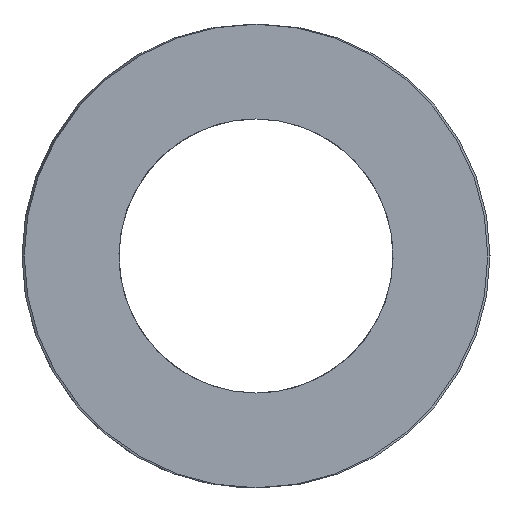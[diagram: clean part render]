
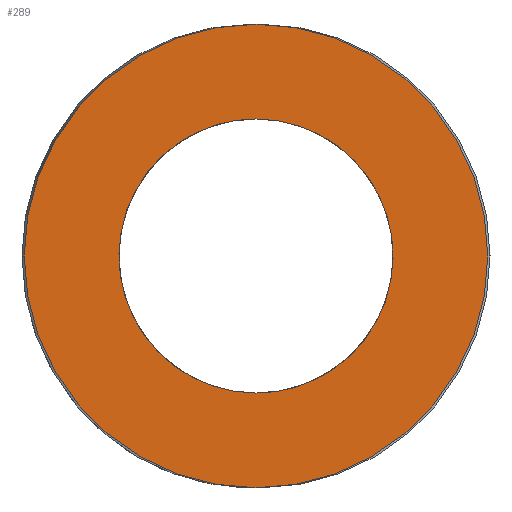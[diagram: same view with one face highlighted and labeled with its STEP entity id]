
A CAD part, left-side view. The second image highlights one B-rep face of the part: STEP entity #289.
In plain terms, the highlighted planar face has unit normal (-1, 0, 0).
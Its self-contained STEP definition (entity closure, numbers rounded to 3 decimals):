
#63=CARTESIAN_POINT('Vertex',(0.,4.65,0.)) ;
#77=CARTESIAN_POINT('Vertex',(0.,-4.65,0.)) ;
#80=CARTESIAN_POINT('Axis2P3D Location',(0.,0.,0.)) ;
#97=CARTESIAN_POINT('Axis2P3D Location',(0.,0.,0.)) ;
#226=CARTESIAN_POINT('Axis2P3D Location',(0.,2.325,0.)) ;
#236=CARTESIAN_POINT('Control Point',(0.,0.,-2.75)) ;
#237=CARTESIAN_POINT('Control Point',(0.,0.325,-2.75)) ;
#238=CARTESIAN_POINT('Control Point',(0.,0.65,-2.702)) ;
#239=CARTESIAN_POINT('Control Point',(0.,0.965,-2.606)) ;
#240=CARTESIAN_POINT('Control Point',(0.,1.559,-2.324)) ;
#241=CARTESIAN_POINT('Control Point',(0.,2.045,-1.882)) ;
#242=CARTESIAN_POINT('Control Point',(0.,2.253,-1.626)) ;
#243=CARTESIAN_POINT('Control Point',(0.,2.589,-1.061)) ;
#244=CARTESIAN_POINT('Control Point',(0.,2.747,-0.424)) ;
#245=CARTESIAN_POINT('Control Point',(0.,2.777,-0.095)) ;
#246=CARTESIAN_POINT('Control Point',(0.,2.741,0.561)) ;
#247=CARTESIAN_POINT('Control Point',(0.,2.517,1.178)) ;
#248=CARTESIAN_POINT('Control Point',(0.,2.36,1.468)) ;
#249=CARTESIAN_POINT('Control Point',(0.,1.964,1.993)) ;
#250=CARTESIAN_POINT('Control Point',(0.,1.434,2.38)) ;
#251=CARTESIAN_POINT('Control Point',(0.,1.142,2.534)) ;
#252=CARTESIAN_POINT('Control Point',(0.,0.733,2.675)) ;
#253=CARTESIAN_POINT('Control Point',(0.,0.309,2.735)) ;
#254=CARTESIAN_POINT('Control Point',(0.,0.206,2.745)) ;
#255=CARTESIAN_POINT('Control Point',(0.,0.103,2.75)) ;
#256=CARTESIAN_POINT('Control Point',(0.,0.,2.75)) ;
#257=CARTESIAN_POINT('Vertex',(0.,0.,-2.75)) ;
#259=CARTESIAN_POINT('Vertex',(0.,0.,2.75)) ;
#263=CARTESIAN_POINT('Control Point',(0.,0.,2.75)) ;
#264=CARTESIAN_POINT('Control Point',(0.,-0.325,2.75)) ;
#265=CARTESIAN_POINT('Control Point',(0.,-0.65,2.702)) ;
#266=CARTESIAN_POINT('Control Point',(0.,-0.965,2.606)) ;
#267=CARTESIAN_POINT('Control Point',(0.,-1.559,2.324)) ;
#268=CARTESIAN_POINT('Control Point',(0.,-2.045,1.882)) ;
#269=CARTESIAN_POINT('Control Point',(0.,-2.253,1.626)) ;
#270=CARTESIAN_POINT('Control Point',(0.,-2.589,1.061)) ;
#271=CARTESIAN_POINT('Control Point',(0.,-2.747,0.424)) ;
#272=CARTESIAN_POINT('Control Point',(0.,-2.777,0.095)) ;
#273=CARTESIAN_POINT('Control Point',(0.,-2.741,-0.561)) ;
#274=CARTESIAN_POINT('Control Point',(0.,-2.517,-1.178)) ;
#275=CARTESIAN_POINT('Control Point',(0.,-2.36,-1.468)) ;
#276=CARTESIAN_POINT('Control Point',(0.,-1.964,-1.993)) ;
#277=CARTESIAN_POINT('Control Point',(0.,-1.434,-2.38)) ;
#278=CARTESIAN_POINT('Control Point',(0.,-1.142,-2.534)) ;
#279=CARTESIAN_POINT('Control Point',(0.,-0.733,-2.675)) ;
#280=CARTESIAN_POINT('Control Point',(0.,-0.309,-2.735)) ;
#281=CARTESIAN_POINT('Control Point',(0.,-0.206,-2.745)) ;
#282=CARTESIAN_POINT('Control Point',(0.,-0.103,-2.75)) ;
#283=CARTESIAN_POINT('Control Point',(0.,0.,-2.75)) ;
#81=DIRECTION('Axis2P3D Direction',(1.,-0.,0.)) ;
#98=DIRECTION('Axis2P3D Direction',(1.,-0.,0.)) ;
#227=DIRECTION('Axis2P3D Direction',(-1.,0.,0.)) ;
#228=DIRECTION('Axis2P3D XDirection',(0.,1.,0.)) ;
#82=AXIS2_PLACEMENT_3D('Circle Axis2P3D',#80,#81,$) ;
#99=AXIS2_PLACEMENT_3D('Circle Axis2P3D',#97,#98,$) ;
#229=AXIS2_PLACEMENT_3D('Plane Axis2P3D',#226,#227,#228) ;
#232=ORIENTED_EDGE('',*,*,#84,.T.) ;
#233=ORIENTED_EDGE('',*,*,#101,.T.) ;
#286=ORIENTED_EDGE('',*,*,#261,.T.) ;
#287=ORIENTED_EDGE('',*,*,#284,.T.) ;
#288=FACE_BOUND('',#285,.T.) ;
#289=ADVANCED_FACE('392-B10-038',(#234,#288),#230,.T.) ;
#235=B_SPLINE_CURVE_WITH_KNOTS('',5,(#236,#237,#238,#239,#240,#241,#242,#243,#244,#245,#246,#247,#248,#249,#250,#251,#252,#253,#254,#255,#256),.UNSPECIFIED.,.F.,.U.,(6,3,3,3,3,3,6),(0.,2.298,4.596,6.893,9.191,11.489,12.217),.UNSPECIFIED.) ;
#262=B_SPLINE_CURVE_WITH_KNOTS('',5,(#263,#264,#265,#266,#267,#268,#269,#270,#271,#272,#273,#274,#275,#276,#277,#278,#279,#280,#281,#282,#283),.UNSPECIFIED.,.F.,.U.,(6,3,3,3,3,3,6),(0.,2.298,4.596,6.893,9.191,11.489,12.217),.UNSPECIFIED.) ;
#83=CIRCLE('generated circle',#82,4.65) ;
#100=CIRCLE('generated circle',#99,4.65) ;
#84=EDGE_CURVE('',#64,#78,#83,.F.) ;
#101=EDGE_CURVE('',#78,#64,#100,.F.) ;
#261=EDGE_CURVE('',#258,#260,#235,.T.) ;
#284=EDGE_CURVE('',#260,#258,#262,.T.) ;
#231=EDGE_LOOP('',(#232,#233)) ;
#285=EDGE_LOOP('',(#286,#287)) ;
#234=FACE_OUTER_BOUND('',#231,.T.) ;
#230=PLANE('Plane',#229) ;
#64=VERTEX_POINT('',#63) ;
#78=VERTEX_POINT('',#77) ;
#258=VERTEX_POINT('',#257) ;
#260=VERTEX_POINT('',#259) ;
